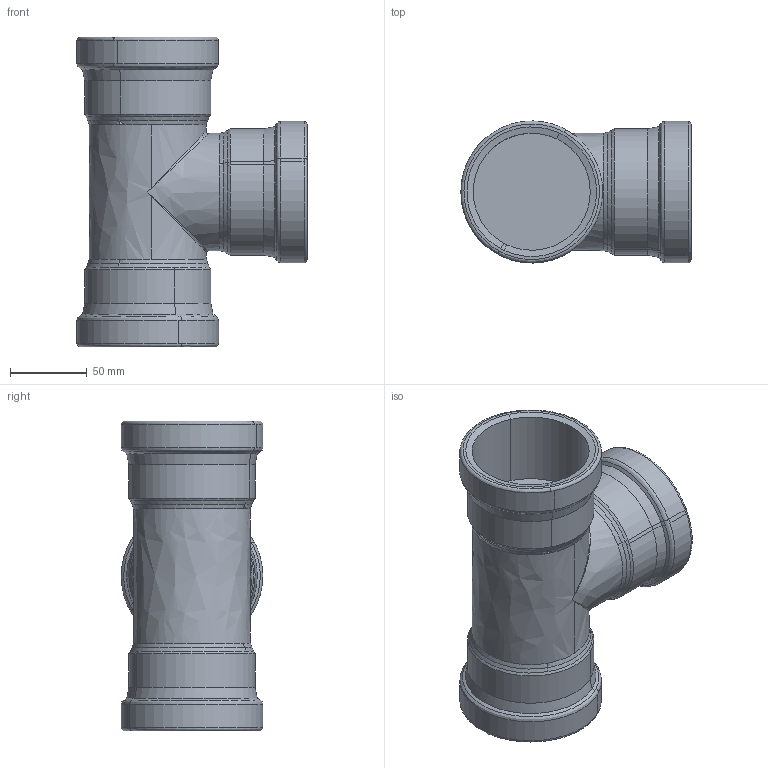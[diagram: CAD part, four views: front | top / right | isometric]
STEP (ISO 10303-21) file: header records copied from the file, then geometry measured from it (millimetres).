
FILE_DESCRIPTION(('STEP AP214'),'1');
FILE_NAME('pim0002997.stp','2015-03-19T13:03:43',('CAD-PIM'),('TransMagic, Inc.'),'TMR11sp0','TransMagic R11',' ');
FILE_SCHEMA(('AUTOMOTIVE_DESIGN'));
Length unit declared in the file: millimetre
Products named in the file (1): pim0002997
Bounding box: 149.49 x 91.98 x 201 mm (x, y, z)
Volume: 758286.1 mm3; surface area: 122480 mm2
Topology: 1 solids, 1 shells, 101 faces, 242 edges, 136 vertices
Faces by surface type: bspline 101
Entity records: 5952 total; most frequent: CARTESIAN_POINT 3885, ORIENTED_EDGE 464, EDGE_CURVE 232, VERTEX_POINT 136, EDGE_LOOP 104, STYLED_ITEM 102, PRESENTATION_STYLE_ASSIGNMENT 102, SURFACE_STYLE_USAGE 102
